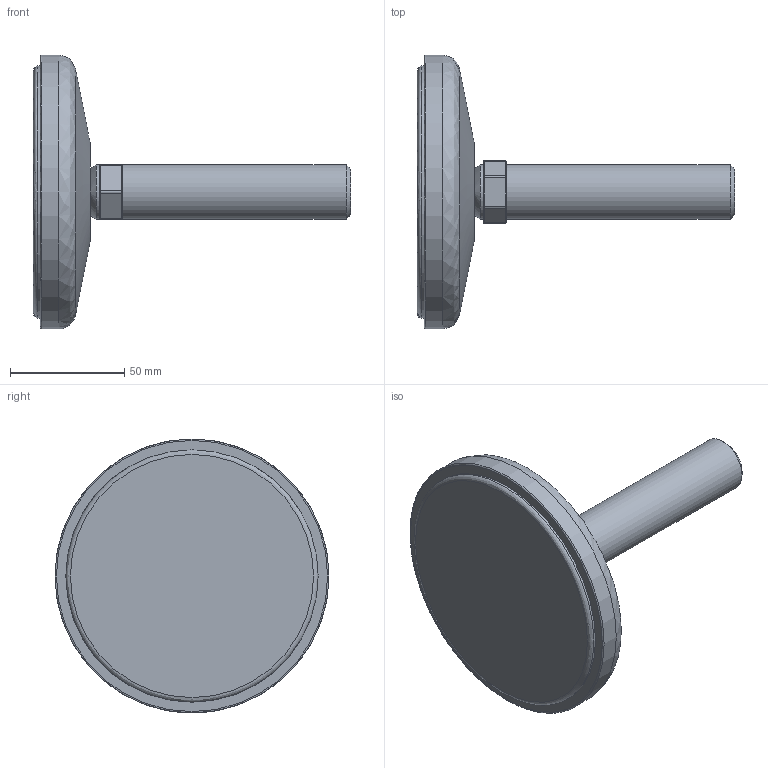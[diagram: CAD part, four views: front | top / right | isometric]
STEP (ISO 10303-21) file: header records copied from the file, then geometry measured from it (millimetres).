
FILE_DESCRIPTION(('STEP AP203'),'2;1');
FILE_NAME('11419-24.stp','2013-11-26T14:49:47',(''),(''),'2008.1.107','THINKDESIGN','');
FILE_SCHEMA(('CONFIG_CONTROL_DESIGN'));
Length unit declared in the file: millimetre
Bounding box: 139 x 120 x 120 mm (x, y, z)
Volume: 248842.8 mm3; surface area: 60329 mm2
Topology: 5 solids, 5 shells, 63 faces, 143 edges, 80 vertices
Faces by surface type: cylinder 25, bspline 20, plane 18
Full cylindrical faces by diameter (mm): 11 x1, 24 x3, 110.5 x2, 120 x1
Entity records: 3226 total; most frequent: CARTESIAN_POINT 1855, ORIENTED_EDGE 262, DIRECTION 254, EDGE_CURVE 131, AXIS2_PLACEMENT_3D 104, VERTEX_POINT 80, EDGE_LOOP 67, FACE_OUTER_BOUND 63
